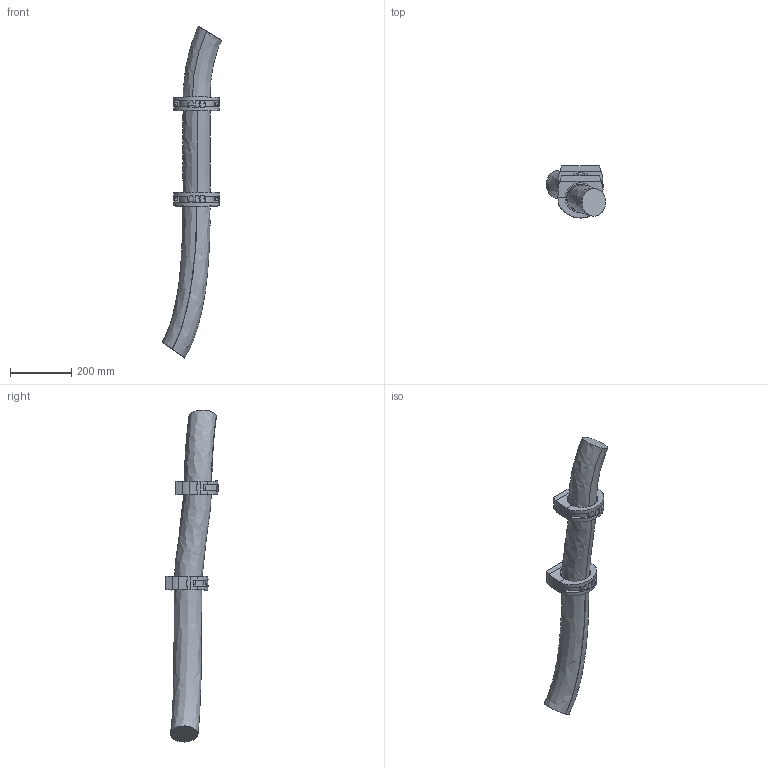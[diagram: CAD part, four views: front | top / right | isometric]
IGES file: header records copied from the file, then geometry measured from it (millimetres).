
Start section: SolidWorks IGES file using analytic representation for surfaces
Global section: file name: C:\Users\SEALDUN\OneDrive - ABB\Documents\R&D Robotics\Work Items\WI 632927\IGES\IRB5710-LID-SW_70kg-270_OC_02_IGES_J\IRB5710-LID-SW_70kg-270_OC_00_LINK02_CABLE.igs; native system: SolidWorks 2024; preprocessor: SolidWorks 2024; author: SEALDUN; date: 250707.155102; units: millimetre
Bounding box: 194.55 x 170.99 x 1087.4 mm (x, y, z)
Surface area: 427899.5 mm2 (no closed solid volume)
Topology: 0 solids, 0 shells, 274 faces, 5019 edges, 5019 vertices
Faces by surface type: bspline 174, revolution 100
